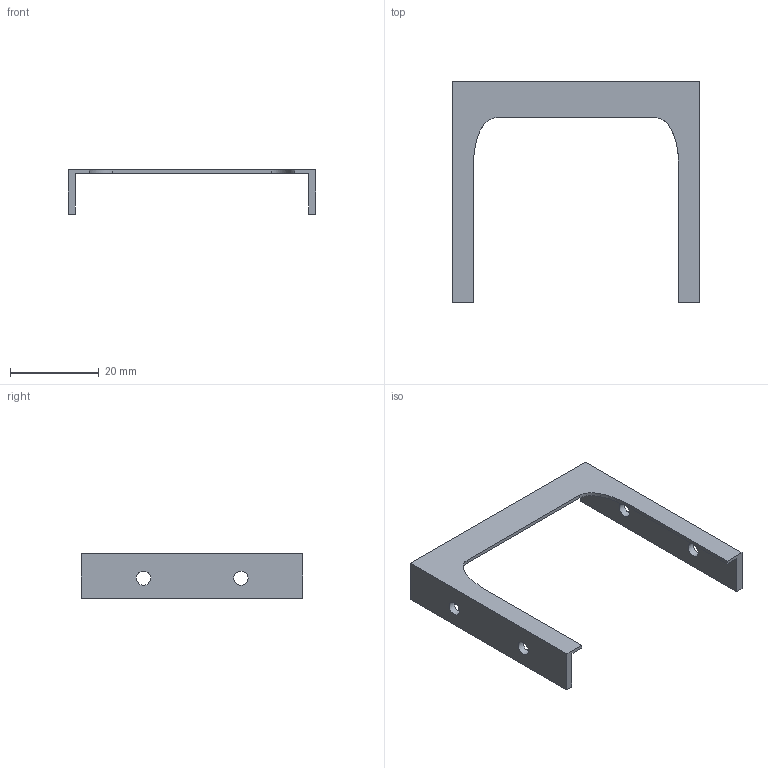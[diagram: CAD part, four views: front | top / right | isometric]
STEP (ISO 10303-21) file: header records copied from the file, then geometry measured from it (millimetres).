
FILE_DESCRIPTION(/* description */ (''),/* implementation_level */ '2;1');
FILE_NAME(/* name */ '1-11-1 Fan duct frame.step',/* time_stamp */ '2025-05-10T21:34:01+02:00',/* author */ (''),/* organization */ (''),/* preprocessor_version */ 'ST-DEVELOPER v20.1',/* originating_system */ 'Autodesk Translation Framework v14.4.0.0',/* authorisation */ '');
FILE_SCHEMA (('AUTOMOTIVE_DESIGN { 1 0 10303 214 3 1 1 }'));
Length unit declared in the file: millimetre
Products named in the file (1): 1-11-1 Fan duct frame
Bounding box: 55.9 x 50.1 x 10 mm (x, y, z)
Volume: 2130.8 mm3; surface area: 3903.2 mm2
Topology: 1 solids, 1 shells, 22 faces, 60 edges, 40 vertices
Faces by surface type: plane 14, cylinder 4, bspline 4
Full cylindrical faces by diameter (mm): 3.2 x4
Entity records: 872 total; most frequent: CARTESIAN_POINT 275, ORIENTED_EDGE 120, DIRECTION 98, EDGE_CURVE 60, LINE 44, VECTOR 44, VERTEX_POINT 40, EDGE_LOOP 30
